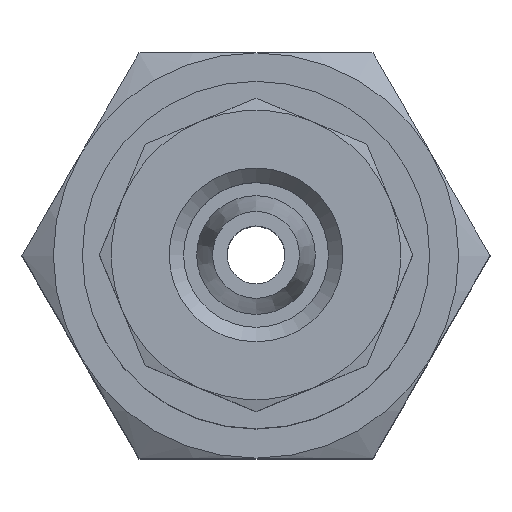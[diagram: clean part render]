
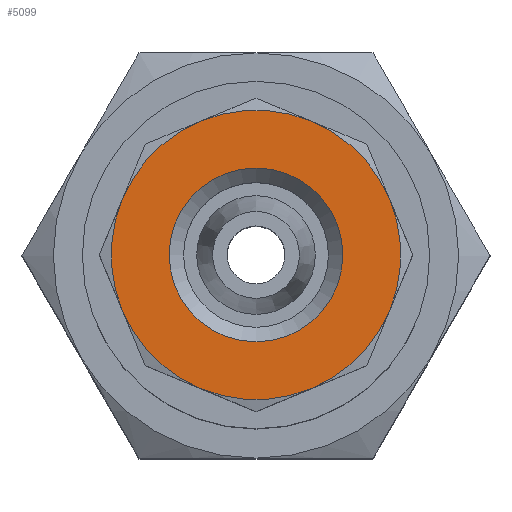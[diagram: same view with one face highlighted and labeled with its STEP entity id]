
A CAD part, top view. The second image highlights one B-rep face of the part: STEP entity #5099.
In plain terms, the highlighted planar face has unit normal (0, 0, 1) as drawn and (0, 1, 0) by its records, which use the part's own axes.
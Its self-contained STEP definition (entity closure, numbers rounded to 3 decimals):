
#2722=ORIENTED_EDGE('',*,*,#3201,.F.);
#2723=ORIENTED_EDGE('',*,*,#3202,.F.);
#2724=ORIENTED_EDGE('',*,*,#3203,.F.);
#2725=ORIENTED_EDGE('',*,*,#3204,.F.);
#2726=ORIENTED_EDGE('',*,*,#3205,.F.);
#2727=ORIENTED_EDGE('',*,*,#3206,.F.);
#2728=ORIENTED_EDGE('',*,*,#3207,.F.);
#2729=ORIENTED_EDGE('',*,*,#3208,.F.);
#2730=ORIENTED_EDGE('',*,*,#3200,.T.);
#2884=CIRCLE('',#4907,3.);
#2885=CIRCLE('',#4909,5.);
#2886=CIRCLE('',#4910,5.);
#2887=CIRCLE('',#4911,5.);
#2888=CIRCLE('',#4912,5.);
#2889=CIRCLE('',#4913,5.);
#2890=CIRCLE('',#4914,5.);
#2891=CIRCLE('',#4915,5.);
#2892=CIRCLE('',#4916,5.);
#3008=VERTEX_POINT('',#4571);
#3009=VERTEX_POINT('',#4574);
#3010=VERTEX_POINT('',#4575);
#3011=VERTEX_POINT('',#4577);
#3012=VERTEX_POINT('',#4579);
#3013=VERTEX_POINT('',#4581);
#3014=VERTEX_POINT('',#4583);
#3015=VERTEX_POINT('',#4585);
#3016=VERTEX_POINT('',#4587);
#3200=EDGE_CURVE('',#3008,#3008,#2884,.T.);
#3201=EDGE_CURVE('',#3009,#3010,#2885,.T.);
#3202=EDGE_CURVE('',#3011,#3009,#2886,.T.);
#3203=EDGE_CURVE('',#3012,#3011,#2887,.T.);
#3204=EDGE_CURVE('',#3013,#3012,#2888,.T.);
#3205=EDGE_CURVE('',#3014,#3013,#2889,.T.);
#3206=EDGE_CURVE('',#3015,#3014,#2890,.T.);
#3207=EDGE_CURVE('',#3016,#3015,#2891,.T.);
#3208=EDGE_CURVE('',#3010,#3016,#2892,.T.);
#3380=EDGE_LOOP('',(#2722,#2723,#2724,#2725,#2726,#2727,#2728,#2729));
#3381=EDGE_LOOP('',(#2730));
#3544=FACE_BOUND('',#3380,.T.);
#3545=FACE_BOUND('',#3381,.T.);
#4072=DIRECTION('',(0.,-1.,0.));
#4073=DIRECTION('',(0.,0.,-3.));
#4074=DIRECTION('',(0.,1.,0.));
#4075=DIRECTION('',(1.,0.,0.));
#4076=DIRECTION('',(0.,-1.,0.));
#4077=DIRECTION('',(0.,0.,5.));
#4078=DIRECTION('',(0.,-1.,0.));
#4079=DIRECTION('',(0.,0.,5.));
#4080=DIRECTION('',(0.,-1.,0.));
#4081=DIRECTION('',(0.,0.,5.));
#4082=DIRECTION('',(0.,-1.,0.));
#4083=DIRECTION('',(0.,0.,5.));
#4084=DIRECTION('',(0.,-1.,0.));
#4085=DIRECTION('',(0.,0.,5.));
#4086=DIRECTION('',(0.,-1.,0.));
#4087=DIRECTION('',(0.,0.,5.));
#4088=DIRECTION('',(0.,-1.,0.));
#4089=DIRECTION('',(0.,0.,5.));
#4090=DIRECTION('',(0.,-1.,0.));
#4091=DIRECTION('',(0.,0.,5.));
#4571=CARTESIAN_POINT('',(0.,11.,-3.));
#4572=CARTESIAN_POINT('',(0.,11.,0.));
#4573=CARTESIAN_POINT('',(1.913,11.,4.619));
#4574=CARTESIAN_POINT('',(-4.619,11.,-1.913));
#4575=CARTESIAN_POINT('',(-1.913,11.,-4.619));
#4576=CARTESIAN_POINT('',(0.,11.,0.));
#4577=CARTESIAN_POINT('',(-4.619,11.,1.913));
#4578=CARTESIAN_POINT('',(0.,11.,0.));
#4579=CARTESIAN_POINT('',(-1.913,11.,4.619));
#4580=CARTESIAN_POINT('',(0.,11.,0.));
#4581=CARTESIAN_POINT('',(1.913,11.,4.619));
#4582=CARTESIAN_POINT('',(0.,11.,0.));
#4583=CARTESIAN_POINT('',(4.619,11.,1.913));
#4584=CARTESIAN_POINT('',(0.,11.,0.));
#4585=CARTESIAN_POINT('',(4.619,11.,-1.913));
#4586=CARTESIAN_POINT('',(0.,11.,0.));
#4587=CARTESIAN_POINT('',(1.913,11.,-4.619));
#4588=CARTESIAN_POINT('',(0.,11.,0.));
#4589=CARTESIAN_POINT('',(0.,11.,0.));
#4907=AXIS2_PLACEMENT_3D('',#4572,#4072,#4073);
#4908=AXIS2_PLACEMENT_3D('',#4573,#4074,#4075);
#4909=AXIS2_PLACEMENT_3D('',#4576,#4076,#4077);
#4910=AXIS2_PLACEMENT_3D('',#4578,#4078,#4079);
#4911=AXIS2_PLACEMENT_3D('',#4580,#4080,#4081);
#4912=AXIS2_PLACEMENT_3D('',#4582,#4082,#4083);
#4913=AXIS2_PLACEMENT_3D('',#4584,#4084,#4085);
#4914=AXIS2_PLACEMENT_3D('',#4586,#4086,#4087);
#4915=AXIS2_PLACEMENT_3D('',#4588,#4088,#4089);
#4916=AXIS2_PLACEMENT_3D('',#4589,#4090,#4091);
#4995=PLANE('',#4908);
#5099=ADVANCED_FACE('',(#3544,#3545),#4995,.T.);
